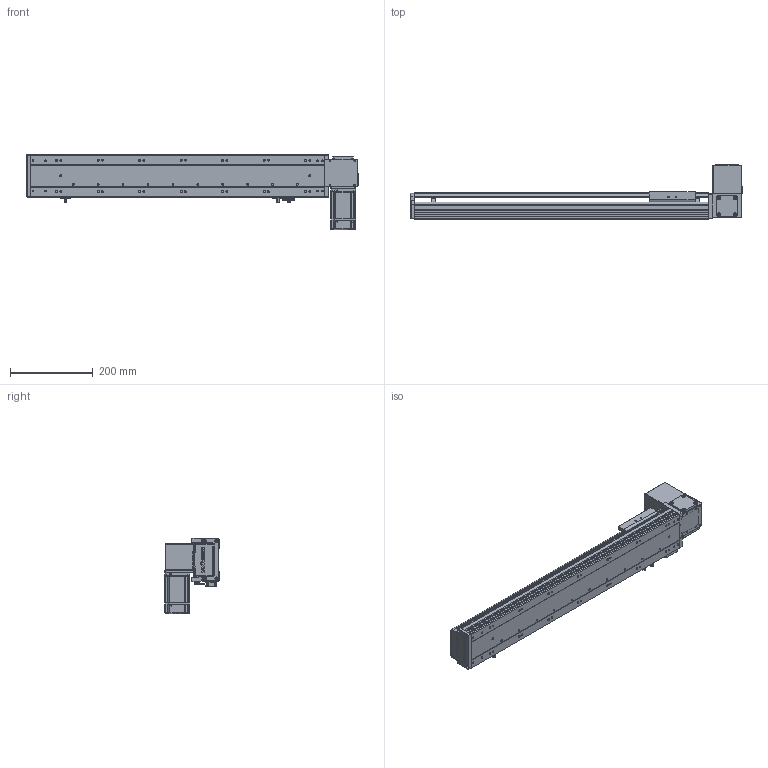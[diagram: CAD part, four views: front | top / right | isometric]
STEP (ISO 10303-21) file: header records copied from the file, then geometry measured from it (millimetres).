
FILE_DESCRIPTION (( 'STEP AP203' ), '1' );
FILE_NAME ('RY100-T-300-UL.SLDASM_500.step', '2024-04-25T08:39:21', ( '盈信电脑' ), ( '东莞市道滘镇水果街19号' ), 'SwSTEP 2.0', 'SolidWorks 2016', '' );
FILE_SCHEMA (( 'CONFIG_CONTROL_DESIGN' ));
Length unit declared in the file: millimetre
Products named in the file (15): RY100綴裔啣; RY100-T肮祭謫臏賑輸; 1; RY100-T肮祭謫翋盓傅釱; RY100-T-300-RK倰第菁釱_500; RY100-T左右折电机安装板; RY100-T粣創揤踡裔; RY100-T翋肮祭謫裔啣; 覜茼ん672; RY100-T翋肮祭謫裔啣2; RY100-T-300-UL.SLDASM_500; RY100俋离覜茼え; RY80-T肮祭謫奻殏俋欶; 滅袉蝶18-10; RY100-T-300-RK倰第奻裔_500
Assembly tree (17 placements, depth 2):
  RY100-T-300-UL.SLDASM_500
    RY100-T-300-RK倰第菁釱_500
    RY100-T-300-RK倰第奻裔_500
    RY100-T肮祭謫臏賑輸
    RY100綴裔啣
    覜茼ん672  x3
    RY100俋离覜茼え
    RY100-T肮祭謫翋盓傅釱
    滅袉蝶18-10  x2
    RY100-T翋肮祭謫裔啣2
    RY100-T翋肮祭謫裔啣
    1
    RY100-T左右折电机安装板
    RY80-T肮祭謫奻殏俋欶
    RY100-T粣創揤踡裔
Bounding box: 800 x 130.5 x 182.5 mm (x, y, z)
Volume: 1826920.7 mm3; surface area: 726984.8 mm2
Topology: 17 solids, 17 shells, 2183 faces, 6061 edges, 3935 vertices
Faces by surface type: plane 1203, cylinder 771, cone 131, bspline 78
Entity records: 70113 total; most frequent: CARTESIAN_POINT 16903, ORIENTED_EDGE 10954, DIRECTION 10415, EDGE_CURVE 5477, VERTEX_POINT 3603, LINE 3571, VECTOR 3571, AXIS2_PLACEMENT_3D 3422
